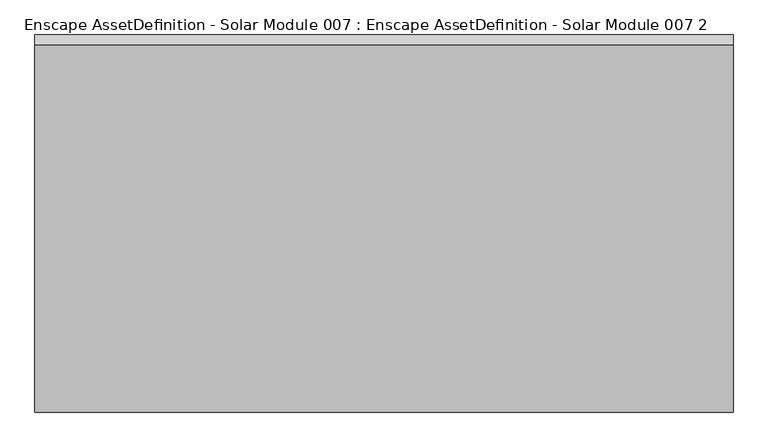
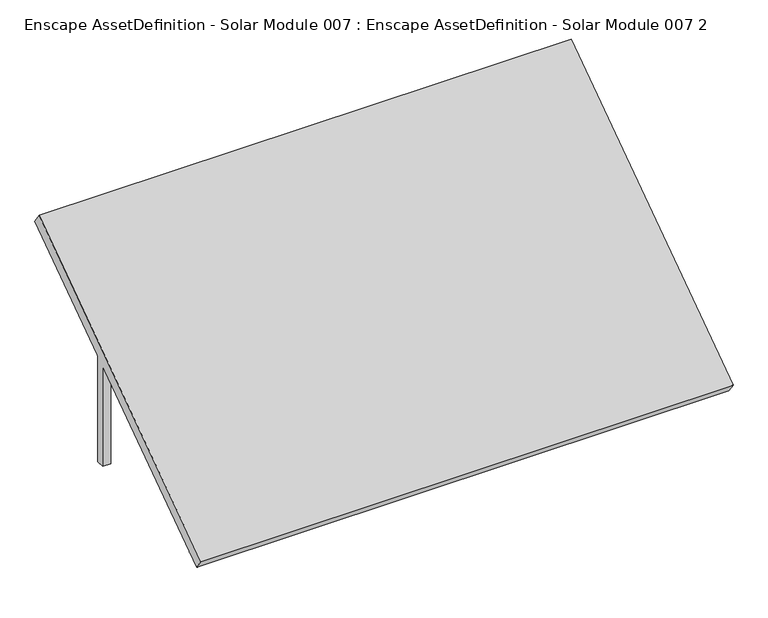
"""IFC4 building model written with IfcOpenShell, lengths in millimetres: geographic element geometry, Enscape AssetDefinition - Solar Module 007 : Enscape AssetDefinition - Solar Module 007 2."""

from ifc_helpers import new_model, si_unit, origin, place, context, project, spatial, triangles, source, transform, mapped, element, save


def enscape_assetdefinition_solar_module_007_enscape_c3ce9a75(model_context):
    return source(origin(), model_context, "Body", "Tessellation", [
        triangles([(972.4720367, -491.8572596, 44.1430768), (-974.4432827, -491.8572596, 44.1430768), (-974.4432827, 532.6101136, 761.4830984), (972.4720367, 532.6101136, 761.4830984), (972.4720367, -518.8269433, 82.6600072), (972.4720367, 505.6403935, 800.0000061), (-974.4432827, 505.6403935, 800.0000061), (-974.4432827, -518.8269433, 82.6600072), (892.4386951, -383.3970921, 0.0), (892.4386951, -353.0511609, 0.0), (892.4386951, -353.0511609, 158.1183101), (922.7846626, -353.0511609, 0.0), (922.7846626, -353.0511609, 158.1183101), (922.7846626, -383.3970921, 139.4142737), (922.7846626, -383.3970921, 0.0), (892.4386951, -383.3970921, 139.4142737), (-922.1006201, -353.0511609, 0.0), (-891.7547253, -383.3970921, 0.0), (-922.1006201, -383.3970921, 0.0), (-891.7547253, -353.0511609, 0.0), (-891.7547253, -353.0511609, 158.1183101), (-922.1006201, -383.3970921, 139.4142737), (-891.7547253, -383.3970921, 139.4142737), (-922.1006201, -353.0511609, 158.1183101), (-922.1886234, 194.3677872, 0.0), (-922.1886234, 224.7137547, 0.0), (-922.1886234, 194.3677872, 544.4019447), (-891.8427286, 224.7137547, 0.0), (-922.1886234, 224.7137547, 563.1059993), (-891.8427286, 194.3677872, 0.0), (-891.8427286, 224.7137547, 563.1059993), (-891.8427286, 194.3677872, 544.4019447), (922.7846626, 194.3677872, 0.0), (922.7846626, 194.3677872, 544.4019447), (892.4386951, 194.3677872, 0.0), (892.4386951, 224.7137547, 0.0), (892.4386951, 194.3677872, 544.4019447), (892.4386951, 224.7137547, 563.1059993), (922.7846626, 224.7137547, 0.0), (922.7846626, 224.7137547, 563.1059993)], [[40, 38, 37], [37, 34, 40], [40, 34, 33], [38, 40, 39], [33, 39, 40], [37, 38, 36], [39, 36, 38], [36, 35, 37], [34, 37, 35], [35, 33, 34], [39, 33, 35], [35, 36, 39], [31, 29, 27], [27, 32, 31], [31, 32, 30], [29, 31, 28], [30, 28, 31], [27, 29, 26], [28, 26, 29], [26, 25, 27], [32, 27, 25], [25, 30, 32], [28, 30, 25], [25, 26, 28], [21, 24, 22], [22, 23, 21], [21, 23, 18], [24, 21, 20], [18, 20, 21], [22, 24, 17], [20, 17, 24], [17, 19, 22], [23, 22, 19], [19, 18, 23], [20, 18, 19], [19, 17, 20], [13, 11, 16], [16, 14, 13], [13, 14, 15], [11, 13, 12], [15, 12, 13], [16, 11, 10], [12, 10, 11], [10, 9, 16], [14, 16, 9], [9, 15, 14], [12, 15, 9], [9, 10, 12], [6, 7, 8], [8, 5, 6], [6, 5, 1], [7, 6, 4], [1, 4, 6], [8, 7, 3], [4, 3, 7], [3, 2, 8], [5, 8, 2], [2, 1, 5], [4, 1, 2], [2, 3, 4]]),
    ])


if __name__ == "__main__":
    model = new_model("IFC4")
    model_context = context("Model", 3, world=origin())
    ifc_project = project(units=[si_unit("LENGTHUNIT", "METRE", prefix="MILLI")], contexts=[model_context])
    site = spatial("IfcSite", under=ifc_project)
    building = spatial("IfcBuilding", under=site)
    placement = place(None, origin())
    enscape_assetdefinition_solar_module_007_enscape_shape = enscape_assetdefinition_solar_module_007_enscape_c3ce9a75(model_context)
    element("IfcGeographicElement", 1, ObjectType="Enscape AssetDefinition - Solar Module 007 : Enscape AssetDefinition - Solar Module 007 2", at=placement, inside=building, context=model_context, shape_type="MappedRepresentation", body=[
        mapped(enscape_assetdefinition_solar_module_007_enscape_shape, transform((0.0, 0.0, 0.0), x_axis=(1.0, 0.0, 0.0), y_axis=(0.0, 1.0, 0.0), z_axis=(0.0, 0.0, 1.0))),
    ])
    save(model, "model.ifc")
